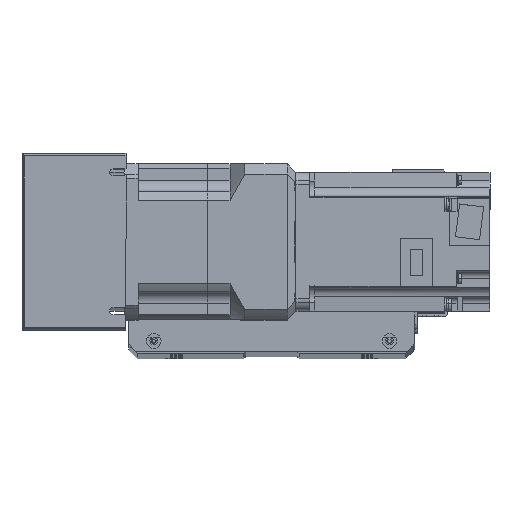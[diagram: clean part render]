
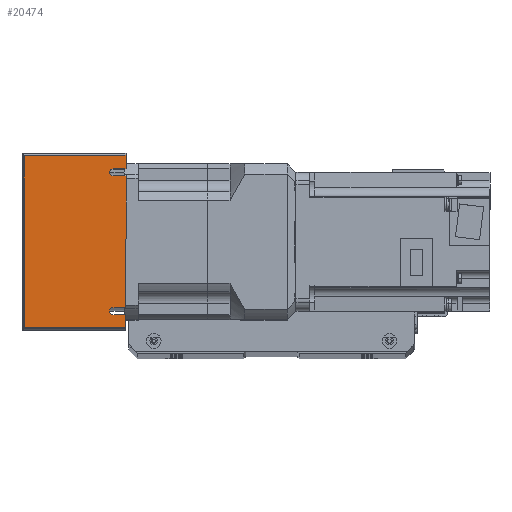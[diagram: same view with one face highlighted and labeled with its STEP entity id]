
A CAD part, top view. The second image highlights one B-rep face of the part: STEP entity #20474.
In plain terms, the highlighted planar face has unit normal (0, 0, 1) as drawn and (-1, 0, 0) by its records, which use the part's own axes.
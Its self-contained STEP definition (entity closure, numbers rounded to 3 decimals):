
#603=PLANE('',#22340);
#1691=LINE('',#32927,#3351);
#1697=LINE('',#32941,#3357);
#1709=LINE('',#32968,#3369);
#1719=LINE('',#32990,#3379);
#1727=LINE('',#33010,#3387);
#1728=LINE('',#33012,#3388);
#1729=LINE('',#33014,#3389);
#1730=LINE('',#33016,#3390);
#1731=LINE('',#33017,#3391);
#1732=LINE('',#33019,#3392);
#3351=VECTOR('',#26676,10.);
#3357=VECTOR('',#26686,10.);
#3369=VECTOR('',#26704,10.);
#3379=VECTOR('',#26718,10.);
#3387=VECTOR('',#26740,10.);
#3388=VECTOR('',#26741,10.);
#3389=VECTOR('',#26742,10.);
#3390=VECTOR('',#26743,10.);
#3391=VECTOR('',#26744,10.);
#3392=VECTOR('',#26747,10.);
#5457=FACE_OUTER_BOUND('',#6969,.T.);
#6969=EDGE_LOOP('',(#16506,#16507,#16508,#16509,#16510,#16511,#16512,#16513,
#16514,#16515,#16516,#16517));
#8441=CIRCLE('',#22335,2.);
#8445=CIRCLE('',#22341,2.);
#9914=VERTEX_POINT('',#32924);
#9915=VERTEX_POINT('',#32926);
#9920=VERTEX_POINT('',#32939);
#9921=VERTEX_POINT('',#32940);
#9932=VERTEX_POINT('',#32966);
#9933=VERTEX_POINT('',#32967);
#9942=VERTEX_POINT('',#32987);
#9943=VERTEX_POINT('',#32989);
#9948=VERTEX_POINT('',#33009);
#9949=VERTEX_POINT('',#33011);
#9950=VERTEX_POINT('',#33013);
#9951=VERTEX_POINT('',#33015);
#12301=EDGE_CURVE('',#9915,#9914,#1691,.T.);
#12307=EDGE_CURVE('',#9920,#9921,#1697,.T.);
#12319=EDGE_CURVE('',#9932,#9933,#1709,.T.);
#12329=EDGE_CURVE('',#9943,#9942,#1719,.T.);
#12331=EDGE_CURVE('',#9921,#9915,#8441,.T.);
#12341=EDGE_CURVE('',#9948,#9914,#1727,.T.);
#12342=EDGE_CURVE('',#9949,#9948,#1728,.T.);
#12343=EDGE_CURVE('',#9950,#9949,#1729,.T.);
#12344=EDGE_CURVE('',#9951,#9950,#1730,.T.);
#12345=EDGE_CURVE('',#9932,#9951,#1731,.T.);
#12346=EDGE_CURVE('',#9933,#9943,#8445,.T.);
#12347=EDGE_CURVE('',#9920,#9942,#1732,.T.);
#16506=ORIENTED_EDGE('',*,*,#12301,.T.);
#16507=ORIENTED_EDGE('',*,*,#12341,.F.);
#16508=ORIENTED_EDGE('',*,*,#12342,.F.);
#16509=ORIENTED_EDGE('',*,*,#12343,.F.);
#16510=ORIENTED_EDGE('',*,*,#12344,.F.);
#16511=ORIENTED_EDGE('',*,*,#12345,.F.);
#16512=ORIENTED_EDGE('',*,*,#12319,.T.);
#16513=ORIENTED_EDGE('',*,*,#12346,.T.);
#16514=ORIENTED_EDGE('',*,*,#12329,.T.);
#16515=ORIENTED_EDGE('',*,*,#12347,.F.);
#16516=ORIENTED_EDGE('',*,*,#12307,.T.);
#16517=ORIENTED_EDGE('',*,*,#12331,.T.);
#20474=ADVANCED_FACE('',(#5457),#603,.T.);
#22335=AXIS2_PLACEMENT_3D('',#32993,#26722,#26723);
#22340=AXIS2_PLACEMENT_3D('',#33008,#26738,#26739);
#22341=AXIS2_PLACEMENT_3D('',#33018,#26745,#26746);
#26676=DIRECTION('',(0.,0.,1.));
#26686=DIRECTION('',(0.,0.,-1.));
#26704=DIRECTION('',(0.,0.,-1.));
#26718=DIRECTION('',(0.,0.,1.));
#26722=DIRECTION('center_axis',(1.,0.,0.));
#26723=DIRECTION('ref_axis',(0.,0.,-1.));
#26738=DIRECTION('center_axis',(-1.,0.,0.));
#26739=DIRECTION('ref_axis',(0.,-1.,0.));
#26740=DIRECTION('',(0.,-1.,0.));
#26741=DIRECTION('',(0.,0.,1.));
#26742=DIRECTION('',(0.,1.,0.));
#26743=DIRECTION('',(0.,0.,-1.));
#26744=DIRECTION('',(0.,-1.,0.));
#26745=DIRECTION('center_axis',(1.,0.,0.));
#26746=DIRECTION('ref_axis',(0.,0.,-1.));
#26747=DIRECTION('',(0.,-1.,0.));
#32924=CARTESIAN_POINT('',(-120.5,42.,30.));
#32926=CARTESIAN_POINT('',(-120.5,42.,22.5));
#32927=CARTESIAN_POINT('',(-120.5,42.,16.304));
#32939=CARTESIAN_POINT('',(-120.5,38.,30.));
#32940=CARTESIAN_POINT('',(-120.5,38.,22.5));
#32941=CARTESIAN_POINT('',(-120.5,38.,11.25));
#32966=CARTESIAN_POINT('',(-120.5,-42.,30.));
#32967=CARTESIAN_POINT('',(-120.5,-42.,22.5));
#32968=CARTESIAN_POINT('',(-120.5,-42.,11.25));
#32987=CARTESIAN_POINT('',(-120.5,-38.,30.));
#32989=CARTESIAN_POINT('',(-120.5,-38.,22.5));
#32990=CARTESIAN_POINT('',(-120.5,-38.,16.169));
#32993=CARTESIAN_POINT('Origin',(-120.5,40.,22.5));
#33008=CARTESIAN_POINT('Origin',(-120.5,51.,0.));
#33009=CARTESIAN_POINT('',(-120.5,50.,30.));
#33010=CARTESIAN_POINT('',(-120.5,-51.,30.));
#33011=CARTESIAN_POINT('',(-120.5,50.,-29.));
#33012=CARTESIAN_POINT('',(-120.5,50.,0.));
#33013=CARTESIAN_POINT('',(-120.5,-50.,-29.));
#33014=CARTESIAN_POINT('',(-120.5,25.5,-29.));
#33015=CARTESIAN_POINT('',(-120.5,-50.,30.));
#33016=CARTESIAN_POINT('',(-120.5,-50.,0.));
#33017=CARTESIAN_POINT('',(-120.5,-51.,30.));
#33018=CARTESIAN_POINT('Origin',(-120.5,-40.,22.5));
#33019=CARTESIAN_POINT('',(-120.5,-51.,30.));
